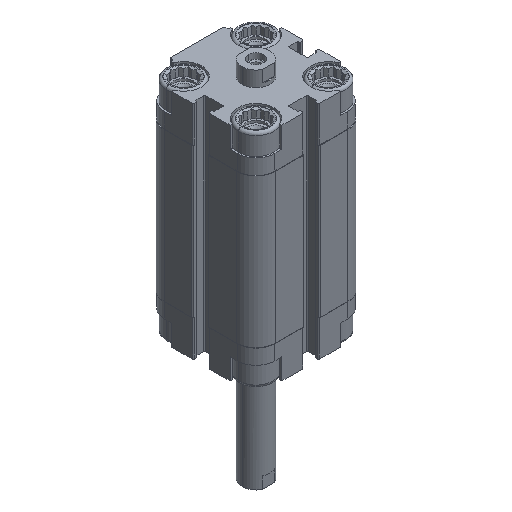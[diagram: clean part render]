
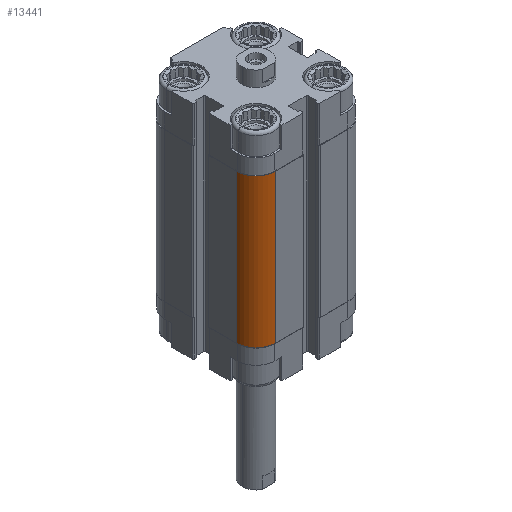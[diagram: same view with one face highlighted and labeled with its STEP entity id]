
A CAD part, isometric view. The second image highlights one B-rep face of the part: STEP entity #13441.
In plain terms, the highlighted cylindrical face has radius 7 mm (diameter 14 mm), a partial arc.
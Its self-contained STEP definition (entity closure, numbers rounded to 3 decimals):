
#1522 = EDGE_CURVE ( 'NONE', #13842, #4129, #15665, .T. ) ;
#3630 = CARTESIAN_POINT ( 'NONE',  ( -13., -20., -66.5 ) ) ;
#3956 = CIRCLE ( 'NONE', #15673, 7. ) ;
#3993 = DIRECTION ( 'NONE',  ( 0., 0., 1. ) ) ;
#4014 = VECTOR ( 'NONE', #15490, 1000. ) ;
#4129 = VERTEX_POINT ( 'NONE', #13679 ) ;
#4441 = ORIENTED_EDGE ( 'NONE', *, *, #17904, .T. ) ;
#5204 = DIRECTION ( 'NONE',  ( 0., 0., -1. ) ) ;
#5884 = ORIENTED_EDGE ( 'NONE', *, *, #1522, .F. ) ;
#6764 = CARTESIAN_POINT ( 'NONE',  ( -13., -20., -66.5 ) ) ;
#7473 = DIRECTION ( 'NONE',  ( 0., 0., 1. ) ) ;
#7519 = VERTEX_POINT ( 'NONE', #3630 ) ;
#7975 = AXIS2_PLACEMENT_3D ( 'NONE', #13663, #5204, #9352 ) ;
#8035 = FACE_OUTER_BOUND ( 'NONE', #18105, .T. ) ;
#8439 = VERTEX_POINT ( 'NONE', #18130 ) ;
#8742 = EDGE_CURVE ( 'NONE', #7519, #8439, #13335, .T. ) ;
#9166 = CYLINDRICAL_SURFACE ( 'NONE', #7975, 7. ) ;
#9352 = DIRECTION ( 'NONE',  ( -1., 0., 0. ) ) ;
#9570 = CARTESIAN_POINT ( 'NONE',  ( -13., -13., -66.5 ) ) ;
#10064 = CIRCLE ( 'NONE', #18429, 7. ) ;
#11841 = ORIENTED_EDGE ( 'NONE', *, *, #17169, .F. ) ;
#11987 = CARTESIAN_POINT ( 'NONE',  ( -20., -13., -66.5 ) ) ;
#13178 = DIRECTION ( 'NONE',  ( -1., 0., 0. ) ) ;
#13335 = LINE ( 'NONE', #6764, #4014 ) ;
#13441 = ADVANCED_FACE ( 'NONE', ( #8035 ), #9166, .T. ) ;
#13663 = CARTESIAN_POINT ( 'NONE',  ( -13., -13., -66.5 ) ) ;
#13679 = CARTESIAN_POINT ( 'NONE',  ( -20., -13., -13. ) ) ;
#13757 = DIRECTION ( 'NONE',  ( 0., 0., 1. ) ) ;
#13797 = VECTOR ( 'NONE', #13757, 1000. ) ;
#13842 = VERTEX_POINT ( 'NONE', #16450 ) ;
#14404 = CARTESIAN_POINT ( 'NONE',  ( -13., -13., -13. ) ) ;
#15283 = DIRECTION ( 'NONE',  ( -1., 0., 0. ) ) ;
#15356 = ORIENTED_EDGE ( 'NONE', *, *, #8742, .T. ) ;
#15490 = DIRECTION ( 'NONE',  ( 0., 0., 1. ) ) ;
#15665 = LINE ( 'NONE', #11987, #13797 ) ;
#15673 = AXIS2_PLACEMENT_3D ( 'NONE', #9570, #3993, #15283 ) ;
#16450 = CARTESIAN_POINT ( 'NONE',  ( -20., -13., -66.5 ) ) ;
#17169 = EDGE_CURVE ( 'NONE', #4129, #8439, #10064, .T. ) ;
#17904 = EDGE_CURVE ( 'NONE', #13842, #7519, #3956, .T. ) ;
#18105 = EDGE_LOOP ( 'NONE', ( #11841, #5884, #4441, #15356 ) ) ;
#18130 = CARTESIAN_POINT ( 'NONE',  ( -13., -20., -13. ) ) ;
#18429 = AXIS2_PLACEMENT_3D ( 'NONE', #14404, #7473, #13178 ) ;
